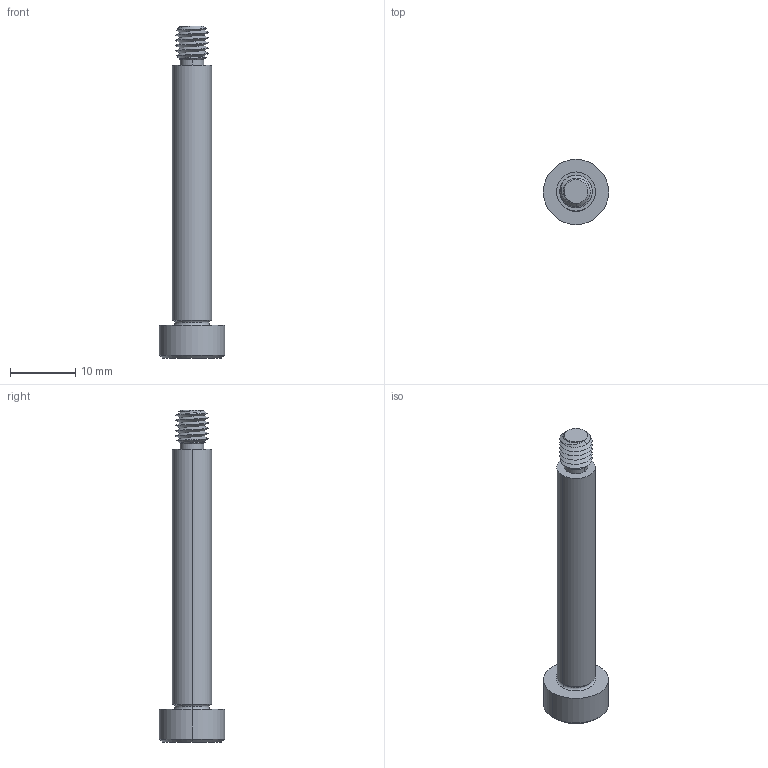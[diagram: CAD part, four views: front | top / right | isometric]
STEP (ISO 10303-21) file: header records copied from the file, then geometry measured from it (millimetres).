
FILE_DESCRIPTION (( 'STEP AP203' ), '1' );
FILE_NAME ('P0130.060-040-B2.step', '2021-11-09T21:28:01', ( '' ), ( '' ), 'SwSTEP 2.0', 'SolidWorks 2019', '' );
FILE_SCHEMA (( 'CONFIG_CONTROL_DESIGN' ));
Length unit declared in the file: millimetre
Products named in the file (1): P0130.060-040-B2
Bounding box: 10 x 10 x 51 mm (x, y, z)
Volume: 1575.4 mm3; surface area: 1241.5 mm2
Topology: 1 solids, 1 shells, 53 faces, 121 edges, 71 vertices
Faces by surface type: cylinder 17, plane 16, cone 14, torus 4, bspline 2
Entity records: 2367 total; most frequent: CARTESIAN_POINT 1186, ORIENTED_EDGE 238, DIRECTION 226, EDGE_CURVE 119, AXIS2_PLACEMENT_3D 92, VERTEX_POINT 71, EDGE_LOOP 56, ADVANCED_FACE 53
